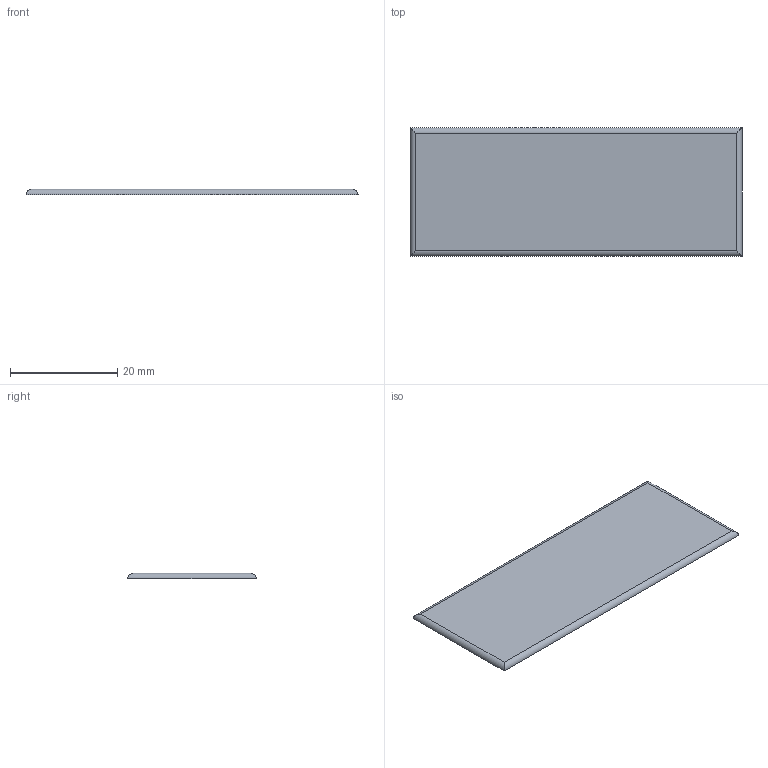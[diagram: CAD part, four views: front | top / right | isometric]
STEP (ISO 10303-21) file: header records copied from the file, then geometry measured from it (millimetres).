
FILE_DESCRIPTION(('STEP AP203'), '1');
FILE_NAME('ïëàñòèíêà íà äåðæàòåëü ñòðóí çàêðûòü âèíòû', '', ('UNSPECIFIED'), ('UNSPECIFIED'), 'ASCON STEP Converter 1.3', 'ASCON Math Kernel', '');
FILE_SCHEMA(('CONFIG_CONTROL_DESIGN'));
Length unit declared in the file: millimetre
Bounding box: 62 x 24 x 1 mm (x, y, z)
Volume: 1451.5 mm3; surface area: 3073.6 mm2
Topology: 1 solids, 1 shells, 6 faces, 12 edges, 8 vertices
Faces by surface type: cylinder 4, plane 2
Entity records: 248 total; most frequent: CARTESIAN_POINT 39, ORIENTED_EDGE 24, DIRECTION 22, EDGE_CURVE 12, VERTEX_POINT 8, LINE 8, VECTOR 8, AXIS2_PLACEMENT_3D 7
